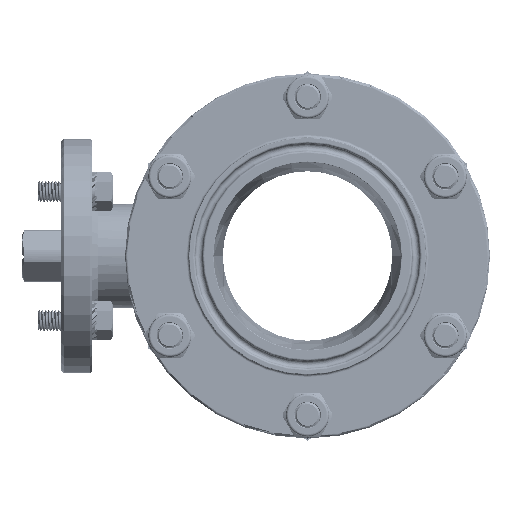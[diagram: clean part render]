
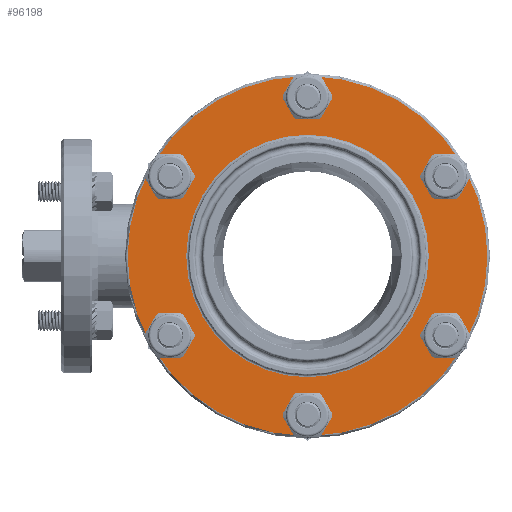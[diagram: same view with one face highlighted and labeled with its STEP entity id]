
A CAD part, left-side view. The second image highlights one B-rep face of the part: STEP entity #96198.
In plain terms, the highlighted planar face has unit normal (-1, 0, 0).
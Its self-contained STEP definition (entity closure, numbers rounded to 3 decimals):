
#214=CARTESIAN_POINT('',(-53.1,-52.828,30.5));
#215=DIRECTION('',(-1.,0.,0.));
#216=DIRECTION('',(0.,1.,0.));
#217=AXIS2_PLACEMENT_3D('',#214,#215,#216);
#222=CARTESIAN_POINT('',(-53.1,-52.828,30.5));
#223=DIRECTION('',(-1.,0.,0.));
#224=DIRECTION('',(0.,-1.,0.));
#225=AXIS2_PLACEMENT_3D('',#222,#223,#224);
#230=CARTESIAN_POINT('',(-53.1,-52.828,-30.5));
#231=DIRECTION('',(-1.,0.,0.));
#232=DIRECTION('',(0.,-0.966,-0.258));
#233=AXIS2_PLACEMENT_3D('',#230,#231,#232);
#238=CARTESIAN_POINT('',(-53.1,-52.828,-30.5));
#239=DIRECTION('',(-1.,0.,0.));
#240=DIRECTION('',(0.,-1.,0.));
#241=AXIS2_PLACEMENT_3D('',#238,#239,#240);
#246=CARTESIAN_POINT('',(-53.1,-52.828,-30.5));
#247=DIRECTION('',(-1.,0.,0.));
#248=DIRECTION('',(0.,1.,0.));
#249=AXIS2_PLACEMENT_3D('',#246,#247,#248);
#254=CARTESIAN_POINT('',(-53.1,0.,-61.));
#255=DIRECTION('',(-1.,0.,0.));
#256=DIRECTION('',(0.,-0.26,-0.966));
#257=AXIS2_PLACEMENT_3D('',#254,#255,#256);
#262=CARTESIAN_POINT('',(-53.1,0.,-61.));
#263=DIRECTION('',(-1.,0.,0.));
#264=DIRECTION('',(0.,-1.,0.));
#265=AXIS2_PLACEMENT_3D('',#262,#263,#264);
#270=CARTESIAN_POINT('',(-53.1,0.,-61.));
#271=DIRECTION('',(-1.,0.,0.));
#272=DIRECTION('',(0.,1.,0.));
#273=AXIS2_PLACEMENT_3D('',#270,#271,#272);
#278=CARTESIAN_POINT('',(-53.1,52.828,-30.5));
#279=DIRECTION('',(-1.,0.,0.));
#280=DIRECTION('',(0.,0.706,-0.708));
#281=AXIS2_PLACEMENT_3D('',#278,#279,#280);
#286=CARTESIAN_POINT('',(-53.1,52.828,-30.5));
#287=DIRECTION('',(-1.,0.,0.));
#288=DIRECTION('',(0.,-1.,0.));
#289=AXIS2_PLACEMENT_3D('',#286,#287,#288);
#294=CARTESIAN_POINT('',(-53.1,52.828,-30.5));
#295=DIRECTION('',(-1.,0.,0.));
#296=DIRECTION('',(0.,1.,0.));
#297=AXIS2_PLACEMENT_3D('',#294,#295,#296);
#302=CARTESIAN_POINT('',(-53.1,52.828,30.5));
#303=DIRECTION('',(-1.,0.,0.));
#304=DIRECTION('',(0.,0.966,0.258));
#305=AXIS2_PLACEMENT_3D('',#302,#303,#304);
#310=CARTESIAN_POINT('',(-53.1,52.828,30.5));
#311=DIRECTION('',(-1.,0.,0.));
#312=DIRECTION('',(0.,1.,0.));
#313=AXIS2_PLACEMENT_3D('',#310,#311,#312);
#318=CARTESIAN_POINT('',(-53.1,52.828,30.5));
#319=DIRECTION('',(-1.,0.,0.));
#320=DIRECTION('',(0.,-1.,0.));
#321=AXIS2_PLACEMENT_3D('',#318,#319,#320);
#326=CARTESIAN_POINT('',(-53.1,0.,61.));
#327=DIRECTION('',(-1.,0.,0.));
#328=DIRECTION('',(0.,0.26,0.966));
#329=AXIS2_PLACEMENT_3D('',#326,#327,#328);
#334=CARTESIAN_POINT('',(-53.1,0.,61.));
#335=DIRECTION('',(-1.,0.,0.));
#336=DIRECTION('',(0.,1.,0.));
#337=AXIS2_PLACEMENT_3D('',#334,#335,#336);
#342=CARTESIAN_POINT('',(-53.1,0.,61.));
#343=DIRECTION('',(-1.,0.,0.));
#344=DIRECTION('',(0.,-1.,0.));
#345=AXIS2_PLACEMENT_3D('',#342,#343,#344);
#350=CARTESIAN_POINT('',(-53.1,-52.828,30.5));
#351=DIRECTION('',(-1.,0.,0.));
#352=DIRECTION('',(0.,-0.706,0.708));
#353=AXIS2_PLACEMENT_3D('',#350,#351,#352);
#358=CARTESIAN_POINT('',(-53.1,0.,0.));
#359=DIRECTION('',(1.,0.,0.));
#360=DIRECTION('',(0.,-1.,0.));
#361=AXIS2_PLACEMENT_3D('',#358,#359,#360);
#374=CARTESIAN_POINT('',(-53.1,0.,0.));
#375=DIRECTION('',(-1.,0.,0.));
#376=DIRECTION('',(0.,-1.,0.));
#377=AXIS2_PLACEMENT_3D('',#374,#375,#376);
#19892=CARTESIAN_POINT('',(-53.1,0.,0.));
#19893=DIRECTION('',(-1.,0.,0.));
#19894=DIRECTION('',(0.,-0.85,0.527));
#19895=AXIS2_PLACEMENT_3D('',#19892,#19893,#19894);
#19908=CARTESIAN_POINT('',(-53.1,0.,0.));
#19909=DIRECTION('',(-1.,0.,0.));
#19910=DIRECTION('',(0.,0.031,1.));
#19911=AXIS2_PLACEMENT_3D('',#19908,#19909,#19910);
#19924=CARTESIAN_POINT('',(-53.1,0.,0.));
#19925=DIRECTION('',(-1.,0.,0.));
#19926=DIRECTION('',(0.,0.881,0.473));
#19927=AXIS2_PLACEMENT_3D('',#19924,#19925,#19926);
#19940=CARTESIAN_POINT('',(-53.1,0.,0.));
#19941=DIRECTION('',(-1.,0.,0.));
#19942=DIRECTION('',(0.,-1.,0.));
#19943=AXIS2_PLACEMENT_3D('',#19940,#19941,#19942);
#34701=CARTESIAN_POINT('',(-53.1,0.,0.));
#34702=DIRECTION('',(1.,0.,0.));
#34703=DIRECTION('',(0.,0.031,-1.));
#34704=AXIS2_PLACEMENT_3D('',#34701,#34702,#34703);
#34717=CARTESIAN_POINT('',(-53.1,0.,0.));
#34718=DIRECTION('',(1.,0.,0.));
#34719=DIRECTION('',(0.,-0.85,-0.527));
#34720=AXIS2_PLACEMENT_3D('',#34717,#34718,#34719);
#34733=CARTESIAN_POINT('',(-53.1,0.,0.));
#34734=DIRECTION('',(1.,0.,0.));
#34735=DIRECTION('',(0.,-1.,0.));
#34736=AXIS2_PLACEMENT_3D('',#34733,#34734,#34735);
#34765=CARTESIAN_POINT('',(-53.1,0.,0.));
#34766=DIRECTION('',(1.,0.,0.));
#34767=DIRECTION('',(0.,0.881,-0.473));
#34768=AXIS2_PLACEMENT_3D('',#34765,#34766,#34767);
#91616=CARTESIAN_POINT('',(-53.1,69.,0.));
#91617=VERTEX_POINT('',#91616);
#91618=CARTESIAN_POINT('',(-53.1,-69.,0.));
#91619=VERTEX_POINT('',#91618);
#91660=CARTESIAN_POINT('',(-53.1,-46.5,0.));
#91661=CARTESIAN_POINT('',(-53.1,46.5,0.));
#91662=VERTEX_POINT('',#91660);
#91663=VERTEX_POINT('',#91661);
#92998=CARTESIAN_POINT('',(-53.1,-44.578,-30.5));
#92999=CARTESIAN_POINT('',(-53.1,-58.655,-36.34));
#93000=VERTEX_POINT('',#92998);
#93001=VERTEX_POINT('',#92999);
#93002=CARTESIAN_POINT('',(-53.1,-60.799,-32.627));
#93003=CARTESIAN_POINT('',(-53.1,-61.078,-30.5));
#93004=VERTEX_POINT('',#93002);
#93005=VERTEX_POINT('',#93003);
#93131=CARTESIAN_POINT('',(-53.1,8.25,-61.));
#93132=CARTESIAN_POINT('',(-53.1,2.143,-68.967));
#93133=VERTEX_POINT('',#93131);
#93134=VERTEX_POINT('',#93132);
#93135=CARTESIAN_POINT('',(-53.1,-2.143,-68.967));
#93136=CARTESIAN_POINT('',(-53.1,-8.25,-61.));
#93137=VERTEX_POINT('',#93135);
#93138=VERTEX_POINT('',#93136);
#93264=CARTESIAN_POINT('',(-53.1,61.078,-30.5));
#93265=CARTESIAN_POINT('',(-53.1,60.799,-32.627));
#93266=VERTEX_POINT('',#93264);
#93267=VERTEX_POINT('',#93265);
#93268=CARTESIAN_POINT('',(-53.1,58.655,-36.34));
#93269=CARTESIAN_POINT('',(-53.1,44.578,-30.5));
#93270=VERTEX_POINT('',#93268);
#93271=VERTEX_POINT('',#93269);
#93397=CARTESIAN_POINT('',(-53.1,61.078,30.5));
#93398=CARTESIAN_POINT('',(-53.1,44.578,30.5));
#93399=VERTEX_POINT('',#93397);
#93400=VERTEX_POINT('',#93398);
#93401=CARTESIAN_POINT('',(-53.1,58.655,36.34));
#93402=VERTEX_POINT('',#93401);
#93403=CARTESIAN_POINT('',(-53.1,60.799,32.627));
#93404=VERTEX_POINT('',#93403);
#93530=CARTESIAN_POINT('',(-53.1,8.25,61.));
#93531=CARTESIAN_POINT('',(-53.1,-8.25,61.));
#93532=VERTEX_POINT('',#93530);
#93533=VERTEX_POINT('',#93531);
#93534=CARTESIAN_POINT('',(-53.1,-2.143,68.967));
#93535=VERTEX_POINT('',#93534);
#93536=CARTESIAN_POINT('',(-53.1,2.143,68.967));
#93537=VERTEX_POINT('',#93536);
#93663=CARTESIAN_POINT('',(-53.1,-44.578,30.5));
#93664=CARTESIAN_POINT('',(-53.1,-61.078,30.5));
#93665=VERTEX_POINT('',#93663);
#93666=VERTEX_POINT('',#93664);
#93667=CARTESIAN_POINT('',(-53.1,-60.799,32.627));
#93668=VERTEX_POINT('',#93667);
#93669=CARTESIAN_POINT('',(-53.1,-58.655,36.34));
#93670=VERTEX_POINT('',#93669);
#96134=CARTESIAN_POINT('',(-53.1,0.,0.));
#96135=DIRECTION('',(-1.,0.,0.));
#96136=DIRECTION('',(0.,1.,0.));
#96137=AXIS2_PLACEMENT_3D('',#96134,#96135,#96136);
#96138=PLANE('',#96137);
#96140=ORIENTED_EDGE('',*,*,#96139,.T.);
#96142=ORIENTED_EDGE('',*,*,#96141,.T.);
#96144=ORIENTED_EDGE('',*,*,#96143,.F.);
#96146=ORIENTED_EDGE('',*,*,#96145,.T.);
#96148=ORIENTED_EDGE('',*,*,#96147,.T.);
#96150=ORIENTED_EDGE('',*,*,#96149,.T.);
#96152=ORIENTED_EDGE('',*,*,#96151,.T.);
#96154=ORIENTED_EDGE('',*,*,#96153,.T.);
#96156=ORIENTED_EDGE('',*,*,#96155,.T.);
#96157=ORIENTED_EDGE('',*,*,#96116,.T.);
#96159=ORIENTED_EDGE('',*,*,#96158,.T.);
#96161=ORIENTED_EDGE('',*,*,#96160,.T.);
#96163=ORIENTED_EDGE('',*,*,#96162,.T.);
#96165=ORIENTED_EDGE('',*,*,#96164,.T.);
#96167=ORIENTED_EDGE('',*,*,#96166,.T.);
#96169=ORIENTED_EDGE('',*,*,#96168,.T.);
#96171=ORIENTED_EDGE('',*,*,#96170,.F.);
#96173=ORIENTED_EDGE('',*,*,#96172,.T.);
#96175=ORIENTED_EDGE('',*,*,#96174,.T.);
#96177=ORIENTED_EDGE('',*,*,#96176,.T.);
#96179=ORIENTED_EDGE('',*,*,#96178,.F.);
#96181=ORIENTED_EDGE('',*,*,#96180,.T.);
#96183=ORIENTED_EDGE('',*,*,#96182,.T.);
#96185=ORIENTED_EDGE('',*,*,#96184,.T.);
#96187=ORIENTED_EDGE('',*,*,#96186,.F.);
#96189=ORIENTED_EDGE('',*,*,#96188,.T.);
#96190=EDGE_LOOP('',(#96140,#96142,#96144,#96146,#96148,#96150,#96152,#96154,
#96156,#96157,#96159,#96161,#96163,#96165,#96167,#96169,#96171,#96173,#96175,
#96177,#96179,#96181,#96183,#96185,#96187,#96189));
#96191=FACE_OUTER_BOUND('',#96190,.F.);
#96193=ORIENTED_EDGE('',*,*,#96192,.F.);
#96195=ORIENTED_EDGE('',*,*,#96194,.T.);
#96196=EDGE_LOOP('',(#96193,#96195));
#96197=FACE_BOUND('',#96196,.F.);
#218=CIRCLE('',#217,8.25);
#226=CIRCLE('',#225,8.25);
#234=CIRCLE('',#233,8.25);
#242=CIRCLE('',#241,8.25);
#250=CIRCLE('',#249,8.25);
#258=CIRCLE('',#257,8.25);
#266=CIRCLE('',#265,8.25);
#274=CIRCLE('',#273,8.25);
#282=CIRCLE('',#281,8.25);
#290=CIRCLE('',#289,8.25);
#298=CIRCLE('',#297,8.25);
#306=CIRCLE('',#305,8.25);
#314=CIRCLE('',#313,8.25);
#322=CIRCLE('',#321,8.25);
#330=CIRCLE('',#329,8.25);
#338=CIRCLE('',#337,8.25);
#346=CIRCLE('',#345,8.25);
#354=CIRCLE('',#353,8.25);
#362=CIRCLE('',#361,46.5);
#378=CIRCLE('',#377,46.5);
#19896=CIRCLE('',#19895,69.);
#19912=CIRCLE('',#19911,69.);
#19928=CIRCLE('',#19927,69.);
#19944=CIRCLE('',#19943,69.);
#34705=CIRCLE('',#34704,69.);
#34721=CIRCLE('',#34720,69.);
#34737=CIRCLE('',#34736,69.);
#34769=CIRCLE('',#34768,69.);
#96116=EDGE_CURVE('',#93138,#93133,#266,.T.);
#96139=EDGE_CURVE('',#93665,#93666,#218,.T.);
#96141=EDGE_CURVE('',#93666,#93668,#226,.T.);
#96143=EDGE_CURVE('',#91619,#93668,#19944,.T.);
#96145=EDGE_CURVE('',#91619,#93004,#34737,.T.);
#96147=EDGE_CURVE('',#93004,#93005,#234,.T.);
#96149=EDGE_CURVE('',#93005,#93000,#242,.T.);
#96151=EDGE_CURVE('',#93000,#93001,#250,.T.);
#96153=EDGE_CURVE('',#93001,#93137,#34721,.T.);
#96155=EDGE_CURVE('',#93137,#93138,#258,.T.);
#96158=EDGE_CURVE('',#93133,#93134,#274,.T.);
#96160=EDGE_CURVE('',#93134,#93270,#34705,.T.);
#96162=EDGE_CURVE('',#93270,#93271,#282,.T.);
#96164=EDGE_CURVE('',#93271,#93266,#290,.T.);
#96166=EDGE_CURVE('',#93266,#93267,#298,.T.);
#96168=EDGE_CURVE('',#93267,#91617,#34769,.T.);
#96170=EDGE_CURVE('',#93404,#91617,#19928,.T.);
#96172=EDGE_CURVE('',#93404,#93399,#306,.T.);
#96174=EDGE_CURVE('',#93399,#93400,#314,.T.);
#96176=EDGE_CURVE('',#93400,#93402,#322,.T.);
#96178=EDGE_CURVE('',#93537,#93402,#19912,.T.);
#96180=EDGE_CURVE('',#93537,#93532,#330,.T.);
#96182=EDGE_CURVE('',#93532,#93533,#338,.T.);
#96184=EDGE_CURVE('',#93533,#93535,#346,.T.);
#96186=EDGE_CURVE('',#93670,#93535,#19896,.T.);
#96188=EDGE_CURVE('',#93670,#93665,#354,.T.);
#96192=EDGE_CURVE('',#91662,#91663,#362,.T.);
#96194=EDGE_CURVE('',#91662,#91663,#378,.T.);
#96198=ADVANCED_FACE('',(#96191,#96197),#96138,.T.);
